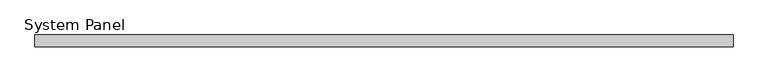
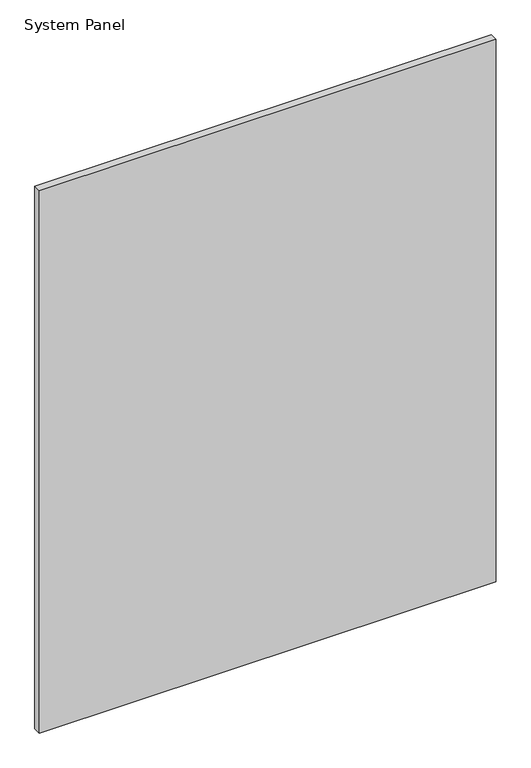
"""IFC4 building model written with IfcOpenShell, lengths in millimetres: plate geometry, System Panel : Panel_Glazed_Generic Showcase_30mm."""

from ifc_helpers import new_model, si_unit, origin, origin_with_axes, place, context, project, spatial, polyline, outline, extrude, source, transform, mapped, element, save


def system_panel_5da723c7(model_context):
    return source(origin(), model_context, "Body", "SweptSolid", [
        extrude(outline(polyline([(875.9897739, 0.0), (-875.9897739, 0.0), (-875.9897739, 30.0), (875.9897739, 30.0), (875.9897739, 0.0)])), origin_with_axes(), (0.0, 0.0, 1.0), 2200.0),
    ])


if __name__ == "__main__":
    model = new_model("IFC4")
    model_context = context("Model", 3, world=origin())
    ifc_project = project(units=[si_unit("LENGTHUNIT", "METRE", prefix="MILLI")], contexts=[model_context])
    site = spatial("IfcSite", under=ifc_project)
    building = spatial("IfcBuilding", under=site)
    placement = place(None, origin())
    system_panel_shape = system_panel_5da723c7(model_context)
    element("IfcPlate", 1, ObjectType="System Panel : Panel_Glazed_Generic Showcase_30mm", at=placement, inside=building, context=model_context, shape_type="MappedRepresentation", body=[
        mapped(system_panel_shape, transform((0.0, 0.0, 0.0), x_axis=(1.0, 0.0, 0.0), y_axis=(0.0, 1.0, 0.0), z_axis=(0.0, 0.0, 1.0))),
    ])
    save(model, "model.ifc")
